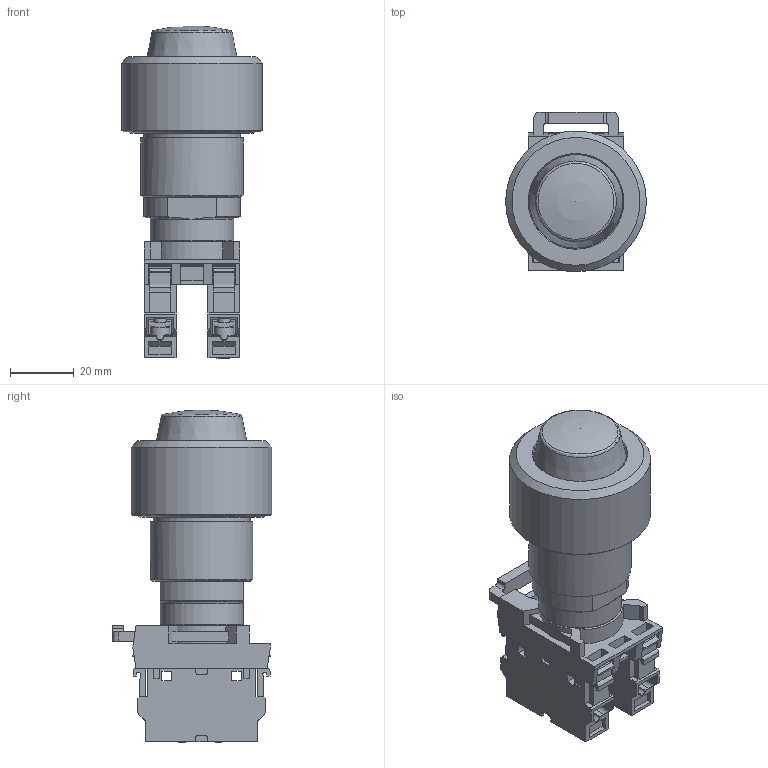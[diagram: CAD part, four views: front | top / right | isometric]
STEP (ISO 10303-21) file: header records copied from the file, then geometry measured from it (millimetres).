
FILE_DESCRIPTION((''),'2;1');
FILE_NAME('\\192.168.5.25\cortem_klient\INVENTOR БАЗА МОДЕЛЕЙ\Актуальная база моделей для отдела продаж\Элементы управления и индикации\КГВ06\КГВ06Ж_3M.stp','2019-04-09T12:07:57',('A.S.Kozlov'),(''),'Autodesk Inventor 2012','Autodesk Inventor 2012','');
FILE_SCHEMA(('CONFIG_CONTROL_DESIGN'));
Length unit declared in the file: millimetre
Products named in the file (1): КГВ06Ж_3M (М-0428G_ABB_3I)_Внешний контур_1
Bounding box: 44 x 50 x 103.79 mm (x, y, z)
Surface area: 54822.6 mm2 (no closed solid volume)
Topology: 0 solids, 14 shells, 843 faces, 2293 edges, 1501 vertices
Faces by surface type: plane 650, cylinder 92, cone 62, bspline 32, torus 5, sphere 2
Full cylindrical faces by diameter (mm): 4 x4, 6.2 x4, 6.5 x4, 10.5 x1, 11.8 x2, 12.6 x1, 15.5 x2, 15.6 x1, 16.6 x1, 17 x1, 18.5 x1, 22 x1, 22.6 x3, 26 x2, 26.3 x1, 26.5 x1, 26.917 x2, 28 x1, 28.5 x1, 29.3 x1, 30.3 x1, 32 x1, 32.2 x2, 33.1 x1, 34 x1, 38.376 x1, 40 x1, 44 x1
Entity records: 27539 total; most frequent: CARTESIAN_POINT 5784, ORIENTED_EDGE 4370, DIRECTION 4030, EDGE_CURVE 2185, VECTOR 1690, LINE 1690, VERTEX_POINT 1479, AXIS2_PLACEMENT_3D 1170
